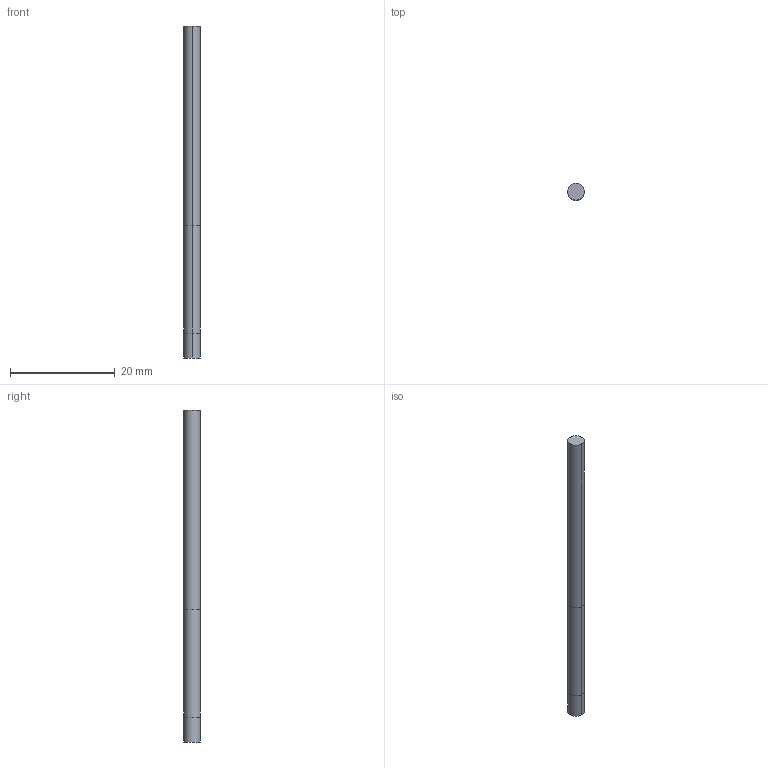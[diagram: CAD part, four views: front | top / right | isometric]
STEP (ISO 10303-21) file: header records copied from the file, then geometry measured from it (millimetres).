
FILE_DESCRIPTION((' '),'2;1');
FILE_NAME( '3MVS1250N8AH.stp', '2026-01-21T19:26:27', (' '), ('--- Datakit www.datakit.com---'), ' Datakit CrossCadWare V2025.4 Sep 19 2025', 'Mastercam 2027', ' ');
FILE_SCHEMA(('AUTOMOTIVE_DESIGN { 1 0 10303 214 1 1 1 1 }'));
Length unit declared in the file: inch
Products named in the file (1): 3MVS1250N8AH
Bounding box: 3.17 x 3.17 x 63.5 mm (x, y, z)
Volume: 502.7 mm3; surface area: 649.2 mm2
Topology: 1 solids, 1 shells, 8 faces, 14 edges, 8 vertices
Faces by surface type: cylinder 6, plane 2
Entity records: 271 total; most frequent: DIRECTION 48, CARTESIAN_POINT 35, ORIENTED_EDGE 28, AXIS2_PLACEMENT_3D 21, EDGE_CURVE 14, VERTEX_POINT 8, CIRCLE 8, EDGE_LOOP 8
